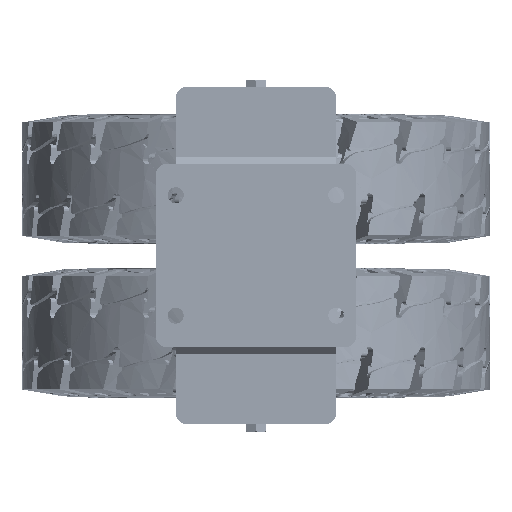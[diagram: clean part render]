
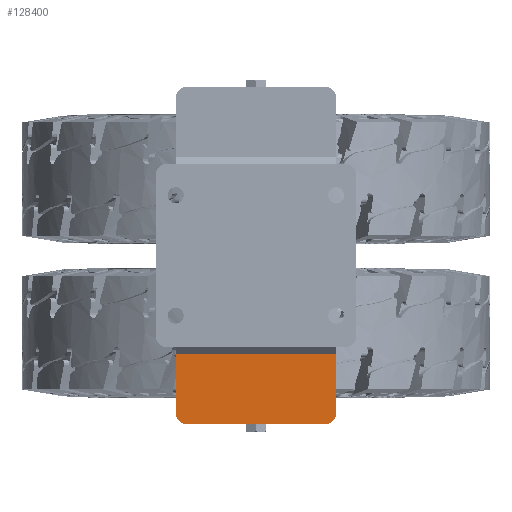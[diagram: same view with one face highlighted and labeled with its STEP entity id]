
A CAD part, top view. The second image highlights one B-rep face of the part: STEP entity #128400.
In plain terms, the highlighted planar face has unit normal (0, 0, 1).
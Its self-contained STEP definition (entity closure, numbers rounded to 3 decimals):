
#16944=LINE('',#172655,#22998);
#17003=LINE('',#172852,#23057);
#17028=LINE('',#172898,#23082);
#17031=LINE('',#172905,#23085);
#22998=VECTOR('',#145648,10.);
#23057=VECTOR('',#145831,10.);
#23082=VECTOR('',#145896,10.);
#23085=VECTOR('',#145905,10.);
#27654=PLANE('',#135331);
#37454=FACE_OUTER_BOUND('',#44710,.T.);
#44710=EDGE_LOOP('',(#92872,#92873,#92874,#92875,#92876,#92877));
#51162=CIRCLE('',#135306,10.);
#51163=CIRCLE('',#135329,10.);
#55946=VERTEX_POINT('',#172653);
#55947=VERTEX_POINT('',#172654);
#56022=VERTEX_POINT('',#172846);
#56023=VERTEX_POINT('',#172848);
#56024=VERTEX_POINT('',#172897);
#56025=VERTEX_POINT('',#172901);
#69930=EDGE_CURVE('',#55946,#55947,#16944,.T.);
#70026=EDGE_CURVE('',#56023,#56022,#51162,.T.);
#70028=EDGE_CURVE('',#55947,#56023,#17003,.T.);
#70053=EDGE_CURVE('',#56024,#55946,#17028,.T.);
#70055=EDGE_CURVE('',#56025,#56024,#51163,.T.);
#70057=EDGE_CURVE('',#56022,#56025,#17031,.T.);
#92872=ORIENTED_EDGE('',*,*,#69930,.T.);
#92873=ORIENTED_EDGE('',*,*,#70028,.T.);
#92874=ORIENTED_EDGE('',*,*,#70026,.T.);
#92875=ORIENTED_EDGE('',*,*,#70057,.T.);
#92876=ORIENTED_EDGE('',*,*,#70055,.T.);
#92877=ORIENTED_EDGE('',*,*,#70053,.T.);
#128400=ADVANCED_FACE('',(#37454),#27654,.T.);
#135306=AXIS2_PLACEMENT_3D('',#172849,#145826,#145827);
#135329=AXIS2_PLACEMENT_3D('',#172902,#145900,#145901);
#135331=AXIS2_PLACEMENT_3D('',#172906,#145906,#145907);
#145648=DIRECTION('',(-1.,0.,0.));
#145826=DIRECTION('center_axis',(0.,0.,1.));
#145827=DIRECTION('ref_axis',(-1.,0.,0.));
#145831=DIRECTION('',(0.,-1.,0.));
#145896=DIRECTION('',(0.,1.,0.));
#145900=DIRECTION('center_axis',(0.,0.,1.));
#145901=DIRECTION('ref_axis',(0.,-1.,0.));
#145905=DIRECTION('',(1.,0.,0.));
#145906=DIRECTION('center_axis',(0.,0.,1.));
#145907=DIRECTION('ref_axis',(1.,0.,0.));
#172653=CARTESIAN_POINT('',(70.,-86.,0.));
#172654=CARTESIAN_POINT('',(-70.,-86.,0.));
#172655=CARTESIAN_POINT('',(-35.,-86.,0.));
#172846=CARTESIAN_POINT('',(-60.,-147.,0.));
#172848=CARTESIAN_POINT('',(-70.,-137.,0.));
#172849=CARTESIAN_POINT('Origin',(-60.,-137.,0.));
#172852=CARTESIAN_POINT('',(-70.,-80.784,0.));
#172897=CARTESIAN_POINT('',(70.,-137.,0.));
#172898=CARTESIAN_POINT('',(70.,-137.,0.));
#172901=CARTESIAN_POINT('',(60.,-147.,0.));
#172902=CARTESIAN_POINT('Origin',(60.,-137.,0.));
#172905=CARTESIAN_POINT('',(-60.,-147.,0.));
#172906=CARTESIAN_POINT('Origin',(0.,0.,
0.));
